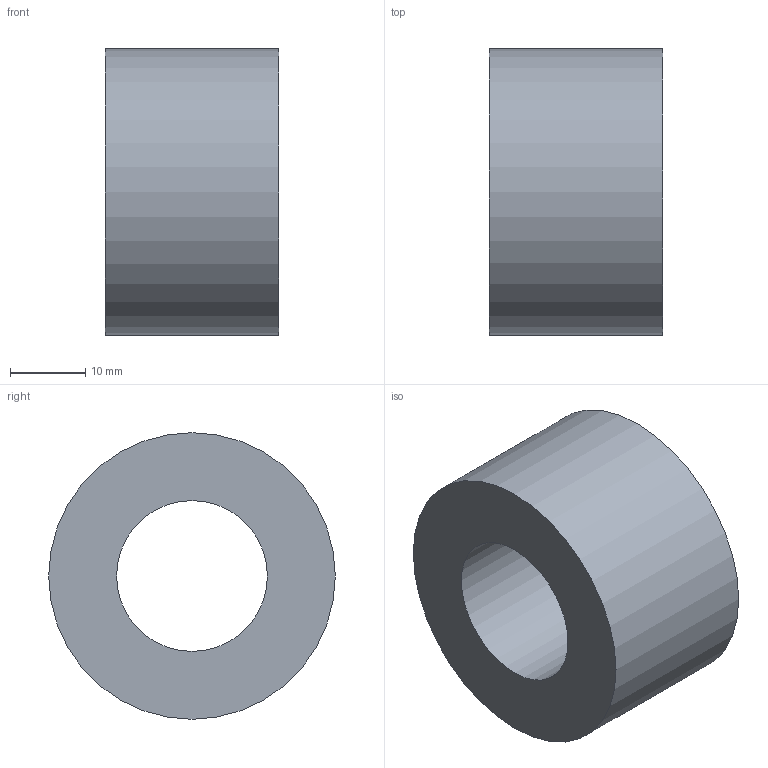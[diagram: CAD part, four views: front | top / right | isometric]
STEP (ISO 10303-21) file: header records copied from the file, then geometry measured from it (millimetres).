
FILE_DESCRIPTION(('Open CASCADE Model'),'2;1');
FILE_NAME('Open CASCADE Shape Model','2026-10-17T16:45:05',('Author'),( 'Open CASCADE'),'Open CASCADE STEP processor 8.0','build123d', 'Unknown');
FILE_SCHEMA(('AUTOMOTIVE_DESIGN { 1 0 10303 214 1 1 1 1 }'));
Length unit declared in the file: millimetre
Products named in the file (1): COMPOUND
Bounding box: 23 x 38 x 38 mm (x, y, z)
Volume: 18859 mm3; surface area: 5830.8 mm2
Topology: 1 solids, 1 shells, 4 faces, 6 edges, 4 vertices
Faces by surface type: cylinder 2, plane 2
Full cylindrical faces by diameter (mm): 20 x1, 38 x1
Entity records: 186 total; most frequent: DIRECTION 32, CARTESIAN_POINT 27, ORIENTED_EDGE 12, PCURVE 12, DEFINITIONAL_REPRESENTATION 12, LINE 10, VECTOR 10, AXIS2_PLACEMENT_3D 9
